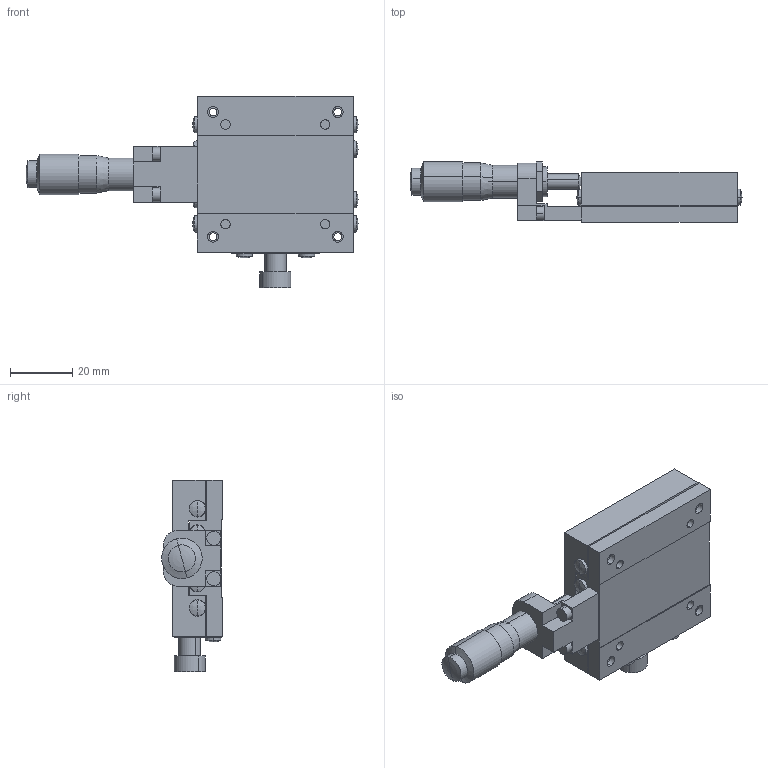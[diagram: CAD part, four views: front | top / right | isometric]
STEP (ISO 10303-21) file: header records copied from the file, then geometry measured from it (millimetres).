
FILE_DESCRIPTION (( 'STEP AP214' ), '1' );
FILE_NAME ('LS‐5041‐CR8.STEP', '2007-08-29T03:46:02', ( '' ), ( '' ), 'SwSTEP 2.0', 'SolidWorks 2006303', '' );
FILE_SCHEMA (( 'AUTOMOTIVE_DESIGN' ));
Length unit declared in the file: millimetre
Products named in the file (3): LS50B800－1_ﾃﾞﾌｫﾙﾄ; LS50B800－2_ﾃﾞﾌｫﾙﾄ; LS‐5041‐CR8
Assembly tree (2 placements, depth 2):
  LS‐5041‐CR8
    LS50B800－1_ﾃﾞﾌｫﾙﾄ
    LS50B800－2_ﾃﾞﾌｫﾙﾄ
Bounding box: 106.5 x 19.48 x 61.3 mm (x, y, z)
Volume: 42087.6 mm3; surface area: 21226.9 mm2
Topology: 3 solids, 3 shells, 210 faces, 521 edges, 332 vertices
Faces by surface type: plane 85, cylinder 77, cone 24, sphere 22, torus 2
Entity records: 6424 total; most frequent: DIRECTION 1189, CARTESIAN_POINT 1066, ORIENTED_EDGE 1038, EDGE_CURVE 519, AXIS2_PLACEMENT_3D 455, VERTEX_POINT 332, VECTOR 279, LINE 279
